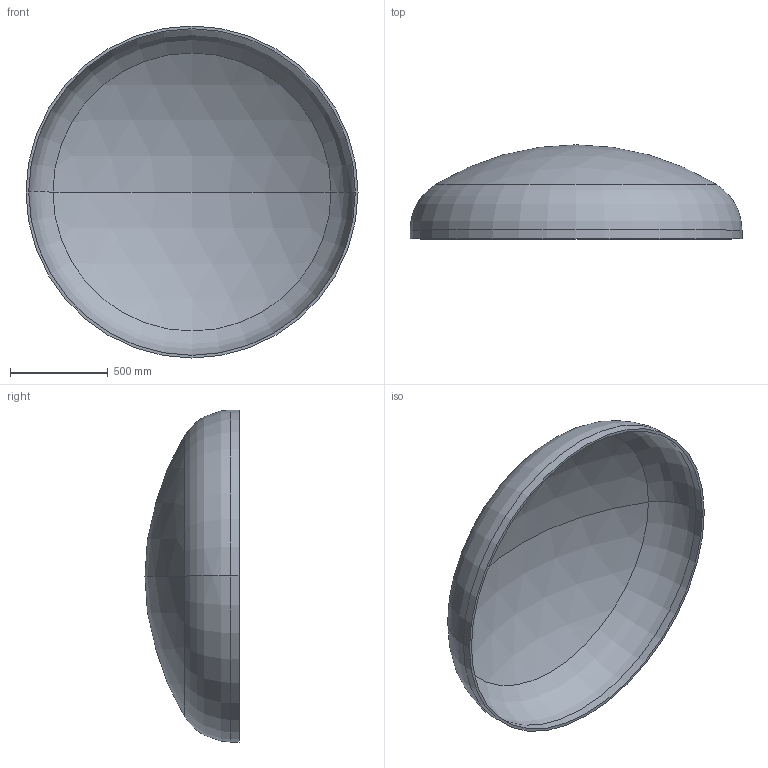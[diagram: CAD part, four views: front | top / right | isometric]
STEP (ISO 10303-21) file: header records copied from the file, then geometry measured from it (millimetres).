
FILE_DESCRIPTION (( 'STEP AP203' ), '1' );
FILE_NAME ('DIN 28013 Korbbogenform_-_Boden DIN 28013 - 1700 x 45 - I - s=14.step', '2016-07-01T11:38:11', ( '' ), ( '' ), 'SwSTEP 2.0', 'SolidWorks 2013', '' );
FILE_SCHEMA (( 'CONFIG_CONTROL_DESIGN' ));
Length unit declared in the file: millimetre
Products named in the file (1): DIN 28013 Korbbogenform_-_Boden DIN 28013 - 1700 x 45 - I - s=14
Bounding box: 1700 x 481.86 x 1700 mm (x, y, z)
Volume: 46812889.8 mm3; surface area: 6762117.8 mm2
Topology: 1 solids, 1 shells, 13 faces, 24 edges, 14 vertices
Faces by surface type: torus 4, cylinder 4, sphere 4, plane 1
Entity records: 407 total; most frequent: DIRECTION 72, CARTESIAN_POINT 52, ORIENTED_EDGE 48, AXIS2_PLACEMENT_3D 34, EDGE_CURVE 24, CIRCLE 20, VERTEX_POINT 14, EDGE_LOOP 14
